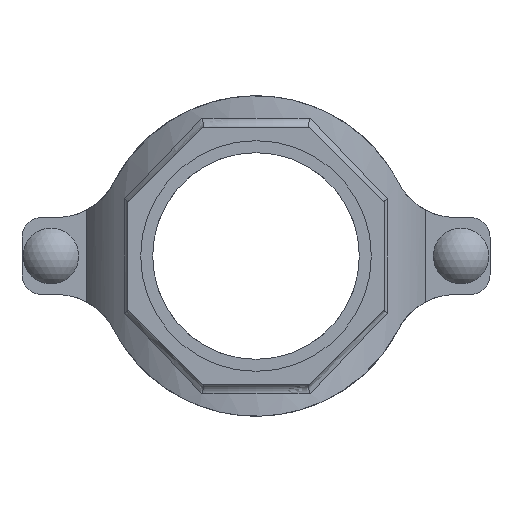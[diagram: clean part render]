
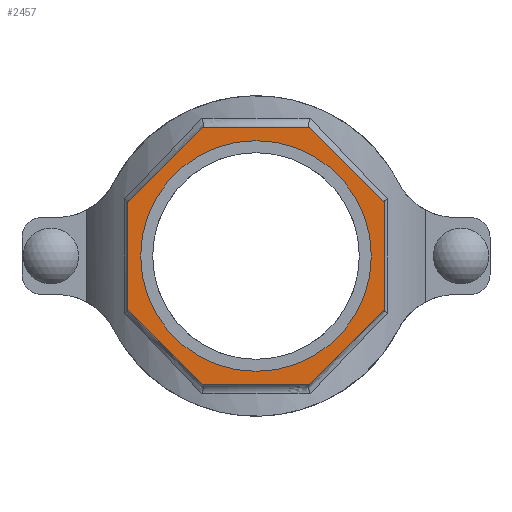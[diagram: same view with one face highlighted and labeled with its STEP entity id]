
A CAD part, front view. The second image highlights one B-rep face of the part: STEP entity #2457.
In plain terms, the highlighted planar face has unit normal (0, -1, 0) as drawn and (0, 1, 0) by its records, which use the part's own axes.
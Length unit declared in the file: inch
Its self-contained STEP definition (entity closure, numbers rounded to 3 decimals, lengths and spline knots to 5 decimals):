
#178=FACE_BOUND('',#441,.T.);
#293=FACE_OUTER_BOUND('',#440,.T.);
#440=EDGE_LOOP('',(#2058,#2059,#2060,#2061,#2062,#2063,#2064,#2065));
#441=EDGE_LOOP('',(#2066));
#576=LINE('',#4567,#758);
#579=LINE('',#4572,#761);
#581=LINE('',#4576,#763);
#583=LINE('',#4580,#765);
#617=LINE('',#4987,#799);
#619=LINE('',#4991,#801);
#621=LINE('',#4995,#803);
#623=LINE('',#4998,#805);
#758=VECTOR('',#3180,0.3937);
#761=VECTOR('',#3185,0.3937);
#763=VECTOR('',#3189,0.3937);
#765=VECTOR('',#3193,0.3937);
#799=VECTOR('',#3307,0.3937);
#801=VECTOR('',#3311,0.3937);
#803=VECTOR('',#3315,0.3937);
#805=VECTOR('',#3319,0.3937);
#887=CIRCLE('',#2710,2.25);
#1065=VERTEX_POINT('',#4564);
#1066=VERTEX_POINT('',#4566);
#1067=VERTEX_POINT('',#4570);
#1068=VERTEX_POINT('',#4574);
#1069=VERTEX_POINT('',#4578);
#1096=VERTEX_POINT('',#4812);
#1120=VERTEX_POINT('',#4986);
#1121=VERTEX_POINT('',#4990);
#1122=VERTEX_POINT('',#4994);
#1366=EDGE_CURVE('',#1066,#1065,#576,.T.);
#1369=EDGE_CURVE('',#1065,#1067,#579,.T.);
#1371=EDGE_CURVE('',#1067,#1068,#581,.T.);
#1373=EDGE_CURVE('',#1068,#1069,#583,.T.);
#1409=EDGE_CURVE('',#1096,#1096,#887,.T.);
#1441=EDGE_CURVE('',#1120,#1066,#617,.T.);
#1443=EDGE_CURVE('',#1121,#1120,#619,.T.);
#1445=EDGE_CURVE('',#1122,#1121,#621,.T.);
#1447=EDGE_CURVE('',#1069,#1122,#623,.T.);
#2058=ORIENTED_EDGE('',*,*,#1447,.T.);
#2059=ORIENTED_EDGE('',*,*,#1445,.T.);
#2060=ORIENTED_EDGE('',*,*,#1443,.T.);
#2061=ORIENTED_EDGE('',*,*,#1441,.T.);
#2062=ORIENTED_EDGE('',*,*,#1366,.T.);
#2063=ORIENTED_EDGE('',*,*,#1369,.T.);
#2064=ORIENTED_EDGE('',*,*,#1371,.T.);
#2065=ORIENTED_EDGE('',*,*,#1373,.T.);
#2066=ORIENTED_EDGE('',*,*,#1409,.T.);
#2206=PLANE('',#2733);
#2457=ADVANCED_FACE('',(#293,#178),#2206,.T.);
#2710=AXIS2_PLACEMENT_3D('',#4813,#3253,#3254);
#2733=AXIS2_PLACEMENT_3D('',#4999,#3320,#3321);
#3180=DIRECTION('',(0.,0.,1.));
#3185=DIRECTION('',(0.707,0.,0.707));
#3189=DIRECTION('',(1.,0.,0.));
#3193=DIRECTION('',(0.707,0.,-0.707));
#3253=DIRECTION('center_axis',(0.,-1.,0.));
#3254=DIRECTION('ref_axis',(-1.,0.,0.));
#3307=DIRECTION('',(-0.707,0.,0.707));
#3311=DIRECTION('',(-1.,0.,0.));
#3315=DIRECTION('',(-0.707,0.,-0.707));
#3319=DIRECTION('',(0.,0.,-1.));
#3320=DIRECTION('center_axis',(0.,1.,0.));
#3321=DIRECTION('ref_axis',(0.,0.,1.));
#4564=CARTESIAN_POINT('',(-2.5,5.75,1.03553));
#4566=CARTESIAN_POINT('',(-2.5,5.75,-1.03553));
#4567=CARTESIAN_POINT('',(-2.5,5.75,1.03553));
#4570=CARTESIAN_POINT('',(-1.03553,5.75,2.5));
#4572=CARTESIAN_POINT('',(-1.03553,5.75,2.5));
#4574=CARTESIAN_POINT('',(1.03553,5.75,2.5));
#4576=CARTESIAN_POINT('',(1.03553,5.75,2.5));
#4578=CARTESIAN_POINT('',(2.5,5.75,1.03553));
#4580=CARTESIAN_POINT('',(2.5,5.75,1.03553));
#4812=CARTESIAN_POINT('',(2.25,5.75,0.));
#4813=CARTESIAN_POINT('Origin',(0.,5.75,0.));
#4986=CARTESIAN_POINT('',(-1.03553,5.75,-2.5));
#4987=CARTESIAN_POINT('',(-2.5,5.75,-1.03553));
#4990=CARTESIAN_POINT('',(1.03553,5.75,-2.5));
#4991=CARTESIAN_POINT('',(-1.03553,5.75,-2.5));
#4994=CARTESIAN_POINT('',(2.5,5.75,-1.03553));
#4995=CARTESIAN_POINT('',(1.03553,5.75,-2.5));
#4998=CARTESIAN_POINT('',(2.5,5.75,-1.03553));
#4999=CARTESIAN_POINT('Origin',(0.,5.75,0.));
